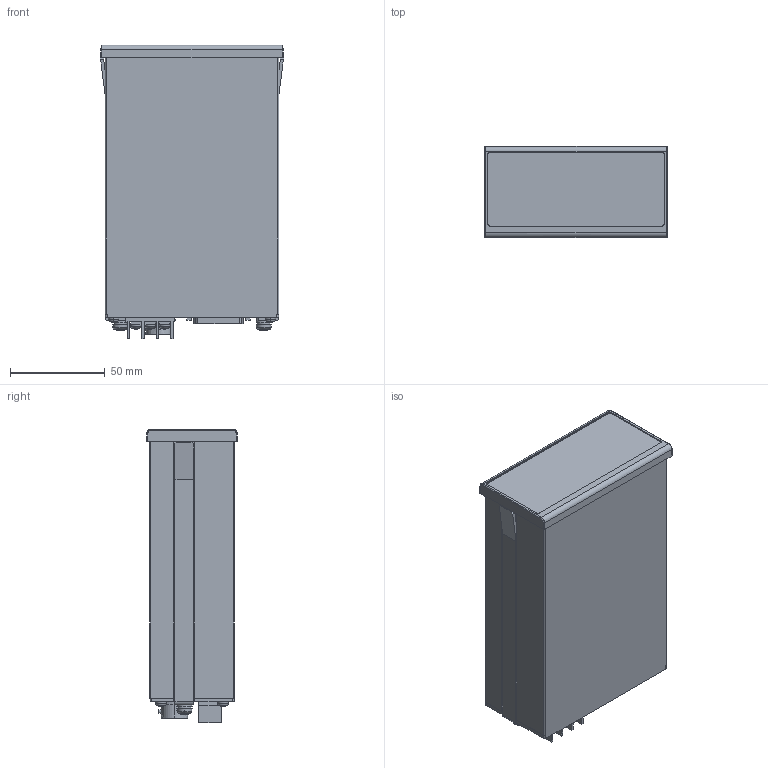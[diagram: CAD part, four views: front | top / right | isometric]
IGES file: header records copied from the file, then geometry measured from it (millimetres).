
Start section: Elysium IGES Interface
Global section: file name: 70HU:\cad_data\30_3D_CAD\LG\01_奜娤3D僨乕僞_20170601峏怴\IGES\EG-101P.igs; native system: Creo Elements/Direct Modeling 18.1B  29-Sep-2012; preprocessor: Creo Element/Direct IGES_3D V2.2; author: Unknown; organization: Unknown; date: 20170921.095904; units: millimetre
Bounding box: 96.48 x 48 x 154.6 mm (x, y, z)
Volume: 584242.4 mm3; surface area: 58227.8 mm2
Topology: 1 solids, 1 shells, 603 faces, 1652 edges, 1074 vertices
Faces by surface type: bspline 603
